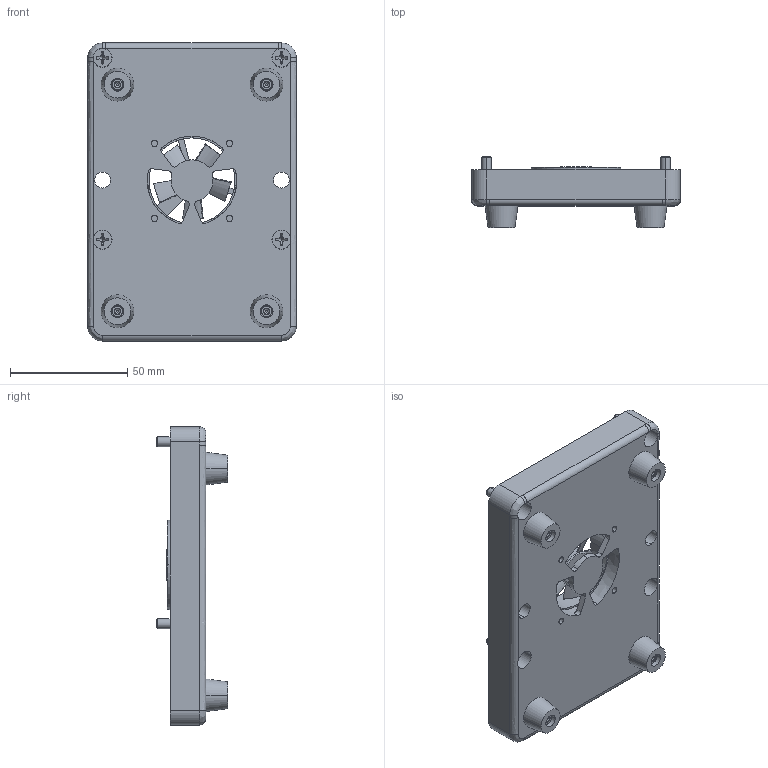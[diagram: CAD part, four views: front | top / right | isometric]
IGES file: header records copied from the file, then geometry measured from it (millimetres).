
Start section: SolidWorks IGES file using analytic representation for surfaces
Global section: file name: C:\Dropbox\Mechanical Engr\Development Projects (P)\203, 205 LaserMount\Customer Model Development\Accessory, 200-FAN.IGS; native system: SolidWorks 2014; preprocessor: SolidWorks 2014; author: mhanson; date: 150227.142127; units: inch
Bounding box: 88.9 x 30.39 x 127 mm (x, y, z)
Volume: 158704 mm3; surface area: 35756.3 mm2
Topology: 1 solids, 1 shells, 550 faces, 1421 edges, 889 vertices
Faces by surface type: plane 290, revolution 203, bspline 57
